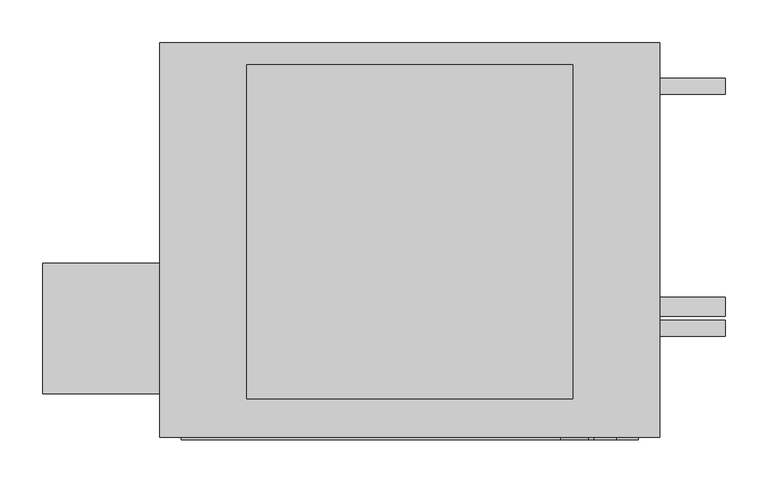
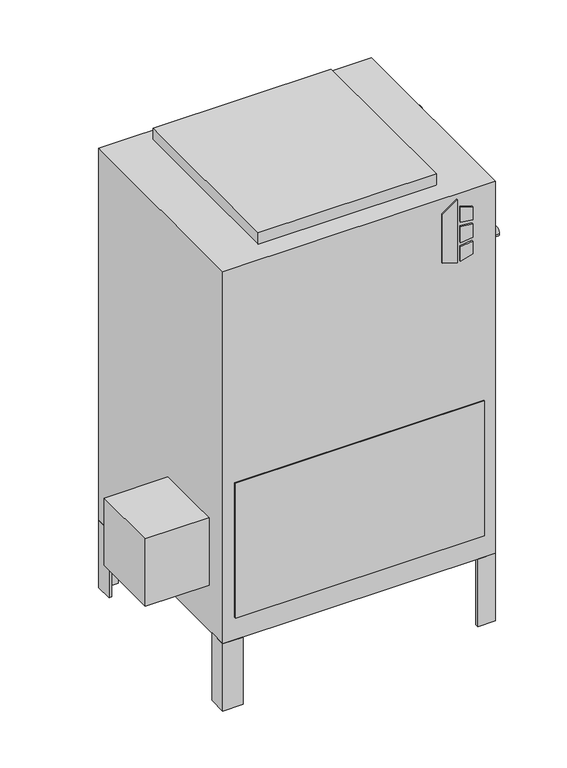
"""IFC4 building model written with IfcOpenShell, lengths in millimetres: proxy geometry, Concealed_High_Capacity_Vertical_Fan_Coil_Unit_-_VEY_-_IEC_-_2-Pipe_Cool-EHeat_RH_2022 : Size 06 - 277v/60Hz/1Ph - 6 Row 4.0kW."""

from ifc_helpers import new_model, si_unit, point, frame, frame_2d, origin, origin_with_axes, place, context, project, spatial, polyline, circle_curve, trimmed, segment, composite_curve, outline, extrude, source, transform, mapped, element, save


def mechanical_equipment_e2ab2f36(model_context):
    return source(origin(), model_context, "Body", "SweptSolid", [
        extrude(outline(polyline([(698.9230703, 328.6868862), (688.975, 360.8602728), (831.1459244, 360.8602728), (808.1239183, 328.6868862), (698.9230703, 328.6868862)])), frame((0.0, -471.4875, 0.0), z_axis=(0.0, 1.0, 0.0), x_axis=(0.0, 0.0, 1.0)), (0.0, 0.0, 1.0), 3.175),
        extrude(outline(polyline([(777.9223557, 367.6186058), (774.7199632, 393.7), (803.9488042, 393.7), (812.0132193, 367.6186058), (777.9223557, 367.6186058)])), frame((0.0, -471.4875, 0.0), z_axis=(0.0, 1.0, 0.0), x_axis=(0.0, 0.0, 1.0)), (0.0, 0.0, 1.0), 3.175),
        extrude(outline(polyline([(726.0588288, 393.7), (722.3933279, 367.6186058), (688.975, 367.6186058), (697.6092372, 393.7), (726.0588288, 393.7)])), frame((0.0, -471.4875, 0.0), z_axis=(0.0, 1.0, 0.0), x_axis=(0.0, 0.0, 1.0)), (0.0, 0.0, 1.0), 3.175),
        extrude(outline(polyline([(765.3739903, 393.7), (767.6558166, 367.6186058), (731.7182681, 367.6186058), (734.4595331, 393.7), (765.3739903, 393.7)])), frame((0.0, -471.4875, 0.0), z_axis=(0.0, 1.0, 0.0), x_axis=(0.0, 0.0, 1.0)), (0.0, 0.0, 1.0), 3.175),
        extrude(outline(polyline([(-276.225, -417.5125), (-276.225, -265.1125), (-139.7, -265.1125), (-139.7, -417.5125), (-276.225, -417.5125)])), frame((0.0, 0.0, 101.6), z_axis=(0.0, 0.0, 1.0), x_axis=(1.0, 0.0, 0.0)), (0.0, 0.0, 1.0), 152.4),
        extrude(outline(polyline([(444.5, -46.0375), (438.15, -46.0375), (438.15, -14.2875), (406.4, -14.2875), (406.4, -7.9375), (444.5, -7.9375), (444.5, -46.0375)])), frame((0.0, 0.0, -152.4), z_axis=(0.0, 0.0, 1.0), x_axis=(1.0, 0.0, 0.0)), (0.0, 0.0, 1.0), 152.4),
        extrude(outline(polyline([(-101.6, -7.9375), (-101.6, -14.2875), (-133.35, -14.2875), (-133.35, -46.0375), (-139.7, -46.0375), (-139.7, -7.9375), (-101.6, -7.9375)])), frame((0.0, 0.0, -152.4), z_axis=(0.0, 0.0, 1.0), x_axis=(1.0, 0.0, 0.0)), (0.0, 0.0, 1.0), 152.4),
        extrude(outline(polyline([(406.4, -468.3125), (406.4, -461.9625), (438.15, -461.9625), (438.15, -430.2125), (444.5, -430.2125), (444.5, -468.3125), (406.4, -468.3125)])), frame((0.0, 0.0, -152.4), z_axis=(0.0, 0.0, 1.0), x_axis=(1.0, 0.0, 0.0)), (0.0, 0.0, 1.0), 152.4),
        extrude(outline(polyline([(-139.7, -428.1199163), (-133.35, -428.1199163), (-133.35, -461.9625), (-96.2318533, -461.9625), (-96.2318533, -468.3125), (-139.7, -468.3125), (-139.7, -428.1199163)])), frame((0.0, 0.0, -152.4), z_axis=(0.0, 0.0, 1.0), x_axis=(1.0, 0.0, 0.0)), (0.0, 0.0, 1.0), 152.4),
        extrude(outline(polyline([(342.9, -33.3375), (342.9, -423.8625), (-38.1, -423.8625), (-38.1, -33.3375), (342.9, -33.3375)])), frame((0.0, 0.0, 841.375), z_axis=(0.0, 0.0, 1.0), x_axis=(1.0, 0.0, 0.0)), (0.0, 0.0, 1.0), 25.4),
        extrude(outline(polyline([(419.1, -471.4875), (-114.3, -471.4875), (-114.3, -468.3125), (419.1, -468.3125), (419.1, -471.4875)])), frame((0.0, 0.0, 50.8), z_axis=(0.0, 0.0, 1.0), x_axis=(1.0, 0.0, 0.0)), (0.0, 0.0, 1.0), 304.8),
        extrude(outline(composite_curve([segment(trimmed(circle_curve(frame_2d((-58.7375, 727.075)), 9.525), [point((-49.2125, 727.075))], [point((-68.2625, 727.075))], False, "CARTESIAN"), True, "CONTINUOUS"), segment(trimmed(circle_curve(frame_2d((-58.7375, 727.075)), 9.525), [point((-68.2625, 727.075))], [point((-49.2125, 727.075))], False, "CARTESIAN"), True, "CONTINUOUS")], self_intersect=False)), frame((444.5, 0.0, 0.0), z_axis=(1.0, 0.0, 0.0), x_axis=(0.0, 1.0, 0.0)), (0.0, 0.0, 1.0), 76.2),
        extrude(outline(composite_curve([segment(trimmed(circle_curve(frame_2d((-341.3125, 625.475)), 9.525), [point((-331.7875, 625.475))], [point((-350.8375, 625.475))], False, "CARTESIAN"), True, "CONTINUOUS"), segment(trimmed(circle_curve(frame_2d((-341.3125, 625.475)), 9.525), [point((-350.8375, 625.475))], [point((-331.7875, 625.475))], False, "CARTESIAN"), True, "CONTINUOUS")], self_intersect=False)), frame((444.5, 0.0, 0.0), z_axis=(1.0, 0.0, 0.0), x_axis=(0.0, 1.0, 0.0)), (0.0, 0.0, 1.0), 76.2),
        extrude(outline(composite_curve([segment(trimmed(circle_curve(frame_2d((-315.9125, 536.575)), 11.1125), [point((-304.8, 536.575))], [point((-327.025, 536.575))], False, "CARTESIAN"), True, "CONTINUOUS"), segment(trimmed(circle_curve(frame_2d((-315.9125, 536.575)), 11.1125), [point((-327.025, 536.575))], [point((-304.8, 536.575))], False, "CARTESIAN"), True, "CONTINUOUS")], self_intersect=False)), frame((444.5, 0.0, 0.0), z_axis=(1.0, 0.0, 0.0), x_axis=(0.0, 1.0, 0.0)), (0.0, 0.0, 1.0), 76.2),
        extrude(outline(polyline([(444.5, -7.9375), (444.5, -468.3125), (-139.7, -468.3125), (-139.7, -7.9375), (444.5, -7.9375)])), origin_with_axes(), (0.0, 0.0, 1.0), 841.375),
    ])


if __name__ == "__main__":
    model = new_model("IFC4")
    model_context = context("Model", 3, world=origin())
    ifc_project = project(units=[si_unit("LENGTHUNIT", "METRE", prefix="MILLI")], contexts=[model_context])
    site = spatial("IfcSite", under=ifc_project)
    building = spatial("IfcBuilding", under=site)
    placement = place(None, origin())
    mechanical_equipment_shape = mechanical_equipment_e2ab2f36(model_context)
    element("IfcBuildingElementProxy", 1, Name="Concealed_High_Capacity_Vertical_Fan_Coil_Unit_-_VEY_-_IEC_-_2-Pipe_Cool-EHeat_RH_2022 : Size 06 - 277v/60Hz/1Ph - 6 Row 4.0kW", ObjectType="Concealed_High_Capacity_Vertical_Fan_Coil_Unit_-_VEY_-_IEC_-_2-Pipe_Cool-EHeat_RH_2022 : Size 06 - 277v/60Hz/1Ph - 6 Row 4.0kW", at=placement, inside=building, context=model_context, shape_type="MappedRepresentation", body=[
        mapped(mechanical_equipment_shape, transform((0.0, 0.0, 0.0), x_axis=(1.0, 0.0, 0.0), y_axis=(0.0, 1.0, 0.0), z_axis=(0.0, 0.0, 1.0))),
    ])
    save(model, "model.ifc")
